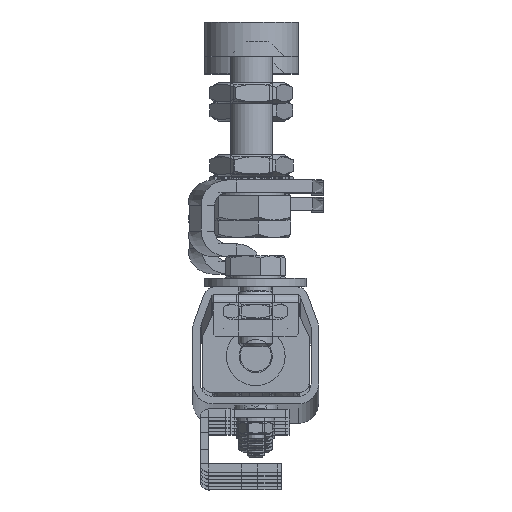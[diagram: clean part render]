
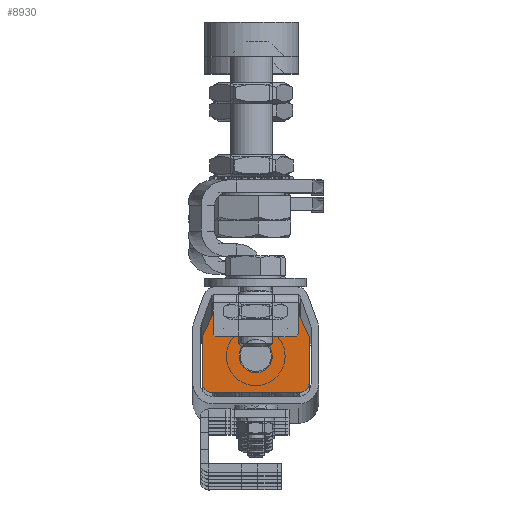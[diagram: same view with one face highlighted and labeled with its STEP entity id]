
A CAD part, top view. The second image highlights one B-rep face of the part: STEP entity #8930.
In plain terms, the highlighted planar face has unit normal (0, 0, 1) as drawn and (1, 0, 0) by its records, which use the part's own axes.
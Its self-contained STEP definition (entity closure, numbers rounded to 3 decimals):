
#449=FACE_BOUND('',#1557,.T.);
#552=PLANE('',#9949);
#1029=FACE_OUTER_BOUND('',#1556,.T.);
#1556=EDGE_LOOP('',(#6558,#6559,#6560,#6561,#6562,#6563,#6564,#6565,#6566,
#6567));
#1557=EDGE_LOOP('',(#6568));
#2139=LINE('',#14071,#2874);
#2163=LINE('',#14142,#2898);
#2168=LINE('',#14156,#2903);
#2172=LINE('',#14168,#2907);
#2175=LINE('',#14174,#2910);
#2178=LINE('',#14180,#2913);
#2182=LINE('',#14191,#2917);
#2185=LINE('',#14196,#2920);
#2874=VECTOR('',#11171,10.);
#2898=VECTOR('',#11249,10.);
#2903=VECTOR('',#11262,10.);
#2907=VECTOR('',#11274,10.);
#2910=VECTOR('',#11279,10.);
#2913=VECTOR('',#11284,10.);
#2917=VECTOR('',#11296,10.);
#2920=VECTOR('',#11303,10.);
#3580=CIRCLE('',#9934,2.);
#3582=CIRCLE('',#9938,2.);
#3585=CIRCLE('',#9945,3.65);
#4095=VERTEX_POINT('',#14052);
#4100=VERTEX_POINT('',#14063);
#4119=VERTEX_POINT('',#14140);
#4120=VERTEX_POINT('',#14141);
#4123=VERTEX_POINT('',#14149);
#4125=VERTEX_POINT('',#14155);
#4127=VERTEX_POINT('',#14161);
#4129=VERTEX_POINT('',#14167);
#4131=VERTEX_POINT('',#14173);
#4133=VERTEX_POINT('',#14179);
#4136=VERTEX_POINT('',#14187);
#4999=EDGE_CURVE('',#4100,#4095,#2139,.T.);
#5033=EDGE_CURVE('',#4119,#4120,#2163,.T.);
#5037=EDGE_CURVE('',#4123,#4119,#3580,.T.);
#5040=EDGE_CURVE('',#4125,#4123,#2168,.T.);
#5043=EDGE_CURVE('',#4127,#4125,#3582,.T.);
#5046=EDGE_CURVE('',#4129,#4127,#2172,.T.);
#5049=EDGE_CURVE('',#4131,#4129,#2175,.T.);
#5052=EDGE_CURVE('',#4120,#4133,#2178,.T.);
#5057=EDGE_CURVE('',#4136,#4136,#3585,.T.);
#5058=EDGE_CURVE('',#4100,#4131,#2182,.T.);
#5061=EDGE_CURVE('',#4133,#4095,#2185,.T.);
#6558=ORIENTED_EDGE('',*,*,#4999,.T.);
#6559=ORIENTED_EDGE('',*,*,#5061,.F.);
#6560=ORIENTED_EDGE('',*,*,#5052,.F.);
#6561=ORIENTED_EDGE('',*,*,#5033,.F.);
#6562=ORIENTED_EDGE('',*,*,#5037,.F.);
#6563=ORIENTED_EDGE('',*,*,#5040,.F.);
#6564=ORIENTED_EDGE('',*,*,#5043,.F.);
#6565=ORIENTED_EDGE('',*,*,#5046,.F.);
#6566=ORIENTED_EDGE('',*,*,#5049,.F.);
#6567=ORIENTED_EDGE('',*,*,#5058,.F.);
#6568=ORIENTED_EDGE('',*,*,#5057,.T.);
#8930=ADVANCED_FACE('',(#1029,#449),#552,.T.);
#9934=AXIS2_PLACEMENT_3D('',#14150,#11255,#11256);
#9938=AXIS2_PLACEMENT_3D('',#14162,#11267,#11268);
#9945=AXIS2_PLACEMENT_3D('',#14189,#11292,#11293);
#9949=AXIS2_PLACEMENT_3D('',#14197,#11304,#11305);
#11171=DIRECTION('',(0.,1.,0.));
#11249=DIRECTION('',(0.,0.,-1.));
#11255=DIRECTION('center_axis',(-1.,0.,0.));
#11256=DIRECTION('ref_axis',(0.,1.,0.));
#11262=DIRECTION('',(0.,1.,0.));
#11267=DIRECTION('center_axis',(-1.,0.,0.));
#11268=DIRECTION('ref_axis',(0.,0.,
1.));
#11274=DIRECTION('',(0.,0.,1.));
#11279=DIRECTION('',(0.,-0.414,0.91));
#11284=DIRECTION('',(0.,-0.414,-0.91));
#11292=DIRECTION('center_axis',(-1.,0.,0.));
#11293=DIRECTION('ref_axis',(0.,0.,
1.));
#11296=DIRECTION('',(0.,0.,1.));
#11303=DIRECTION('',(0.,0.,-1.));
#11304=DIRECTION('center_axis',(1.,0.,0.));
#11305=DIRECTION('ref_axis',(0.,0.,
-1.));
#14052=CARTESIAN_POINT('',(13.103,10.,2.01));
#14063=CARTESIAN_POINT('',(13.103,-10.,2.01));
#14071=CARTESIAN_POINT('',(13.103,5.,2.01));
#14140=CARTESIAN_POINT('',(13.103,12.5,20.997));
#14141=CARTESIAN_POINT('',(13.103,12.5,9.997));
#14142=CARTESIAN_POINT('',(13.103,12.5,9.997));
#14149=CARTESIAN_POINT('',(13.103,10.5,22.997));
#14150=CARTESIAN_POINT('Origin',(13.103,10.5,20.997));
#14155=CARTESIAN_POINT('',(13.103,-10.5,22.997));
#14156=CARTESIAN_POINT('',(13.103,10.5,22.997));
#14161=CARTESIAN_POINT('',(13.103,-12.5,20.997));
#14162=CARTESIAN_POINT('Origin',(13.103,-10.5,20.997));
#14167=CARTESIAN_POINT('',(13.103,-12.5,9.997));
#14168=CARTESIAN_POINT('',(13.103,-12.5,20.997));
#14173=CARTESIAN_POINT('',(13.103,-10.,4.497));
#14174=CARTESIAN_POINT('',(13.103,-12.5,9.997));
#14179=CARTESIAN_POINT('',(13.103,10.,4.497));
#14180=CARTESIAN_POINT('',(13.103,10.,4.497));
#14187=CARTESIAN_POINT('',(13.103,0.,10.847));
#14189=CARTESIAN_POINT('Origin',(13.103,0.,
14.497));
#14191=CARTESIAN_POINT('',(13.103,-10.,4.497));
#14196=CARTESIAN_POINT('',(13.103,10.,-20.103));
#14197=CARTESIAN_POINT('Origin',(13.103,0.,
1.688));
